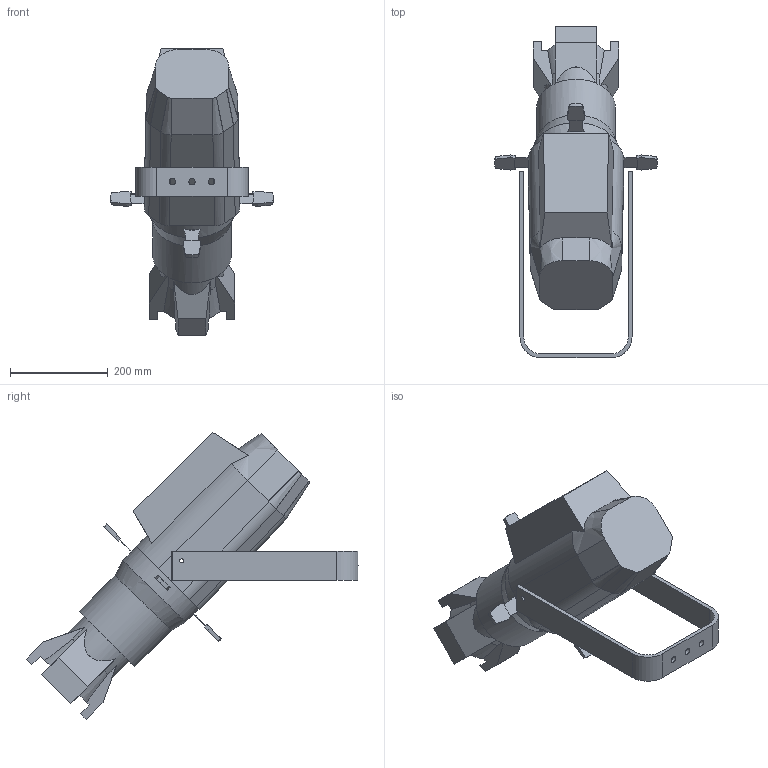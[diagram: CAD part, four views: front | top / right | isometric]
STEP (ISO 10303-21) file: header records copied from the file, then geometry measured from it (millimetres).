
FILE_DESCRIPTION(/* description */ (''),/* implementation_level */ '2;1');
FILE_NAME(/* name */ 'D:/dgooch/Documents/CADENG/PRO/Ovation Réve E-3/45/Ovation Rêve E-3_45.step',/* time_stamp */ '2021-03-18T15:53:32-04:00',/* author */ (''),/* organization */ (''),/* preprocessor_version */ 'ST-DEVELOPER v18.1',/* originating_system */ 'Autodesk Translation Framework v9.10.0.1330',/* authorisation */ '');
FILE_SCHEMA (('AUTOMOTIVE_DESIGN { 1 0 10303 214 3 1 1 }'));
Length unit declared in the file: millimetre
Products named in the file (3): OVATION REVE E-3; Main (1); Bracket_0
Assembly tree (2 placements, depth 2):
  OVATION REVE E-3
    Main (1)
    Bracket_0
Bounding box: 332.08 x 678.19 x 585.67 mm (x, y, z)
Volume: 18379084.7 mm3; surface area: 649682.2 mm2
Topology: 2 solids, 2 shells, 180 faces, 488 edges, 322 vertices
Faces by surface type: plane 107, cylinder 48, bspline 17, cone 8
Full cylindrical faces by diameter (mm): 8.525 x3, 13 x3, 129.5 x2, 160.603 x1, 180.084 x1
Entity records: 6556 total; most frequent: CARTESIAN_POINT 1939, ORIENTED_EDGE 976, DIRECTION 905, EDGE_CURVE 488, VERTEX_POINT 322, LINE 305, VECTOR 305, AXIS2_PLACEMENT_3D 300
